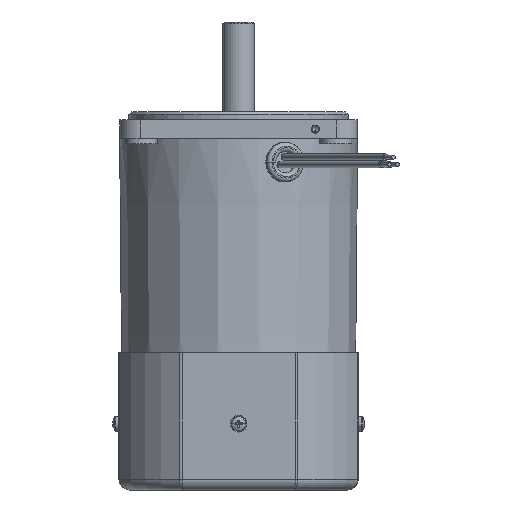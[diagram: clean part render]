
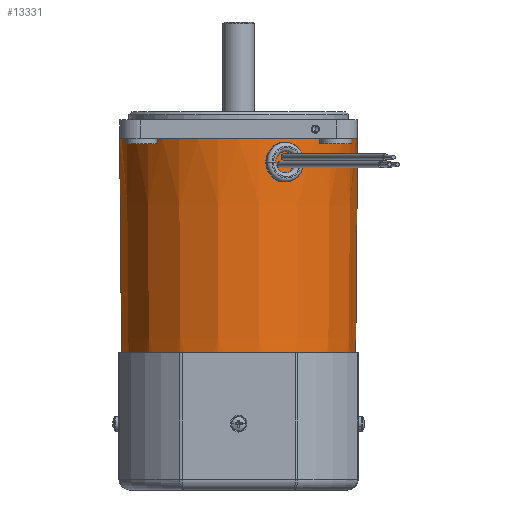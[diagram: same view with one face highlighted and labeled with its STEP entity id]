
A CAD part, front view. The second image highlights one B-rep face of the part: STEP entity #13331.
In plain terms, the highlighted conical face has half-angle 0.5 degrees and reference radius 45 mm.
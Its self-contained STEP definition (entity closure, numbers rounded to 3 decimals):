
#8976 = FACE_OUTER_BOUND ( 'NONE', #13332, .T. ) ;
#8995 = CARTESIAN_POINT ( 'NONE',  ( -44.123, 0., -107.504 ) ) ;
#8996 = CARTESIAN_POINT ( 'NONE',  ( 44.123, 0., -107.504 ) ) ;
#9005 = DIRECTION ( 'NONE',  ( 1., 0., 0. ) ) ;
#9006 = DIRECTION ( 'NONE',  ( 0., 0., 1. ) ) ;
#9007 = CARTESIAN_POINT ( 'NONE',  ( 0., 0., -107.504 ) ) ;
#9008 = AXIS2_PLACEMENT_3D ( 'NONE', #9007, #9006, #9005 ) ;
#9009 = DIRECTION ( 'NONE',  ( -1., 0., 0. ) ) ;
#9010 = DIRECTION ( 'NONE',  ( 0., 0., 1. ) ) ;
#9011 = CARTESIAN_POINT ( 'NONE',  ( 0., 0., -7. ) ) ;
#9012 = AXIS2_PLACEMENT_3D ( 'NONE', #9011, #9010, #9009 ) ;
#9013 = CIRCLE ( 'NONE', #9008, 44.123 ) ;
#9014 = CONICAL_SURFACE ( 'NONE', #9012, 45., 0.009 ) ;
#9316 = DIRECTION ( 'NONE',  ( -0.009, 0., 1. ) ) ;
#9317 = VECTOR ( 'NONE', #9316, 1000. ) ;
#9318 = CARTESIAN_POINT ( 'NONE',  ( -45., 0., -7. ) ) ;
#9319 = LINE ( 'NONE', #9318, #9317 ) ;
#9322 = CARTESIAN_POINT ( 'NONE',  ( -45., 0., -7. ) ) ;
#9323 = CARTESIAN_POINT ( 'NONE',  ( 45., 0., -7. ) ) ;
#9331 = DIRECTION ( 'NONE',  ( -1., 0., 0. ) ) ;
#9332 = DIRECTION ( 'NONE',  ( 0., 0., -1. ) ) ;
#9333 = CARTESIAN_POINT ( 'NONE',  ( 0., 0., -7. ) ) ;
#9334 = AXIS2_PLACEMENT_3D ( 'NONE', #9333, #9332, #9331 ) ;
#9335 = CIRCLE ( 'NONE', #9334, 45. ) ;
#9550 = CARTESIAN_POINT ( 'NONE',  ( 0., -45., -7. ) ) ;
#9567 = DIRECTION ( 'NONE',  ( -1., 0., 0. ) ) ;
#9568 = DIRECTION ( 'NONE',  ( 0., 0., -1. ) ) ;
#9569 = CARTESIAN_POINT ( 'NONE',  ( 0., 0., -7. ) ) ;
#9570 = AXIS2_PLACEMENT_3D ( 'NONE', #9569, #9568, #9567 ) ;
#9571 = CIRCLE ( 'NONE', #9570, 45. ) ;
#9810 = DIRECTION ( 'NONE',  ( 0.009, 0., 1. ) ) ;
#9811 = VECTOR ( 'NONE', #9810, 1000. ) ;
#9812 = CARTESIAN_POINT ( 'NONE',  ( 45., 0., -7. ) ) ;
#9813 = LINE ( 'NONE', #9812, #9811 ) ;
#13331 = ADVANCED_FACE ( 'NONE', ( #8976 ), #9014, .T. ) ;
#13332 = EDGE_LOOP ( 'NONE', ( #13333, #19137, #19333, #19209, #19136 ) ) ;
#13333 = ORIENTED_EDGE ( 'NONE', *, *, #13334, .T. ) ;
#13334 = EDGE_CURVE ( 'NONE', #13430, #13350, #9013, .T. ) ;
#13350 = VERTEX_POINT ( 'NONE', #8996 ) ;
#13430 = VERTEX_POINT ( 'NONE', #8995 ) ;
#19136 = ORIENTED_EDGE ( 'NONE', *, *, #19156, .F. ) ;
#19137 = ORIENTED_EDGE ( 'NONE', *, *, #19442, .T. ) ;
#19152 = VERTEX_POINT ( 'NONE', #9323 ) ;
#19153 = VERTEX_POINT ( 'NONE', #9322 ) ;
#19156 = EDGE_CURVE ( 'NONE', #13430, #19153, #9319, .T. ) ;
#19209 = ORIENTED_EDGE ( 'NONE', *, *, #19374, .T. ) ;
#19211 = EDGE_CURVE ( 'NONE', #19152, #19360, #9335, .T. ) ;
#19333 = ORIENTED_EDGE ( 'NONE', *, *, #19211, .T. ) ;
#19360 = VERTEX_POINT ( 'NONE', #9550 ) ;
#19374 = EDGE_CURVE ( 'NONE', #19360, #19153, #9571, .T. ) ;
#19442 = EDGE_CURVE ( 'NONE', #13350, #19152, #9813, .T. ) ;
